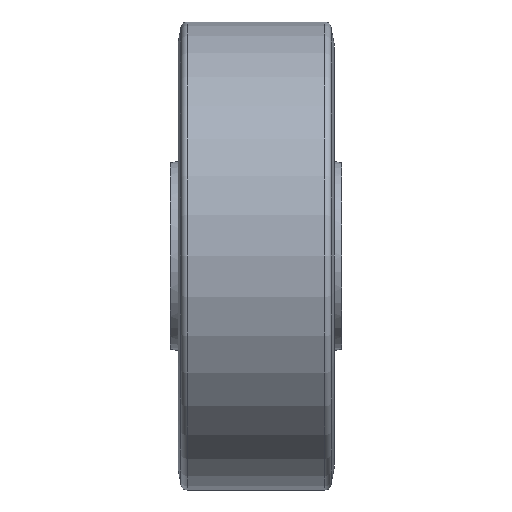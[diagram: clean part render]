
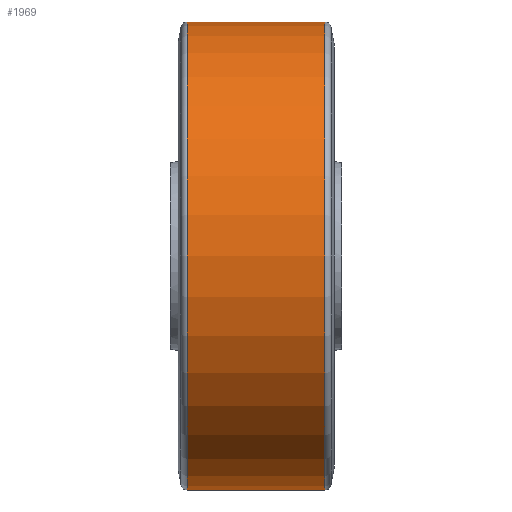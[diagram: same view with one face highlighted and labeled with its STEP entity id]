
A CAD part, front view. The second image highlights one B-rep face of the part: STEP entity #1969.
In plain terms, the highlighted cylindrical face has radius 75 mm (diameter 150 mm), a partial arc.
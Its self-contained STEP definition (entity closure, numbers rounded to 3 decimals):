
#68 = CARTESIAN_POINT ( 'NONE',  ( -22.088, 0., 0. ) ) ;
#84 = VECTOR ( 'NONE', #1595, 1000. ) ;
#264 = VERTEX_POINT ( 'NONE', #741 ) ;
#266 = ORIENTED_EDGE ( 'NONE', *, *, #1395, .F. ) ;
#271 = DIRECTION ( 'NONE',  ( 0., 0., 1. ) ) ;
#357 = DIRECTION ( 'NONE',  ( -1., 0., 0. ) ) ;
#478 = EDGE_CURVE ( 'NONE', #932, #1133, #1717, .T. ) ;
#522 = CARTESIAN_POINT ( 'NONE',  ( 22.088, 0., 75. ) ) ;
#557 = DIRECTION ( 'NONE',  ( 0., 0., 1. ) ) ;
#645 = CIRCLE ( 'NONE', #1801, 75. ) ;
#730 = DIRECTION ( 'NONE',  ( -1., 0., 0. ) ) ;
#741 = CARTESIAN_POINT ( 'NONE',  ( -22.088, 0., -75. ) ) ;
#775 = ORIENTED_EDGE ( 'NONE', *, *, #478, .T. ) ;
#814 = DIRECTION ( 'NONE',  ( 0., 0., 1. ) ) ;
#845 = ORIENTED_EDGE ( 'NONE', *, *, #942, .T. ) ;
#870 = CARTESIAN_POINT ( 'NONE',  ( 0., 0., 0. ) ) ;
#932 = VERTEX_POINT ( 'NONE', #522 ) ;
#942 = EDGE_CURVE ( 'NONE', #1425, #932, #966, .T. ) ;
#966 = CIRCLE ( 'NONE', #2052, 75. ) ;
#1100 = LINE ( 'NONE', #1719, #1713 ) ;
#1111 = EDGE_CURVE ( 'NONE', #264, #1133, #645, .T. ) ;
#1117 = CARTESIAN_POINT ( 'NONE',  ( 0., 0., 75. ) ) ;
#1128 = AXIS2_PLACEMENT_3D ( 'NONE', #870, #1804, #271 ) ;
#1133 = VERTEX_POINT ( 'NONE', #1802 ) ;
#1181 = CYLINDRICAL_SURFACE ( 'NONE', #1128, 75. ) ;
#1213 = EDGE_LOOP ( 'NONE', ( #266, #845, #775, #1228 ) ) ;
#1228 = ORIENTED_EDGE ( 'NONE', *, *, #1111, .F. ) ;
#1239 = CARTESIAN_POINT ( 'NONE',  ( 22.088, 0., -75. ) ) ;
#1268 = DIRECTION ( 'NONE',  ( -1., 0., 0. ) ) ;
#1395 = EDGE_CURVE ( 'NONE', #1425, #264, #1100, .T. ) ;
#1425 = VERTEX_POINT ( 'NONE', #1239 ) ;
#1474 = CARTESIAN_POINT ( 'NONE',  ( 22.088, 0., 0. ) ) ;
#1595 = DIRECTION ( 'NONE',  ( -1., 0., 0. ) ) ;
#1713 = VECTOR ( 'NONE', #1268, 1000. ) ;
#1717 = LINE ( 'NONE', #1117, #84 ) ;
#1719 = CARTESIAN_POINT ( 'NONE',  ( 0., 0., -75. ) ) ;
#1801 = AXIS2_PLACEMENT_3D ( 'NONE', #68, #730, #557 ) ;
#1802 = CARTESIAN_POINT ( 'NONE',  ( -22.088, 0., 75. ) ) ;
#1804 = DIRECTION ( 'NONE',  ( -1., 0., 0. ) ) ;
#1848 = FACE_OUTER_BOUND ( 'NONE', #1213, .T. ) ;
#1969 = ADVANCED_FACE ( 'NONE', ( #1848 ), #1181, .T. ) ;
#2052 = AXIS2_PLACEMENT_3D ( 'NONE', #1474, #357, #814 ) ;
